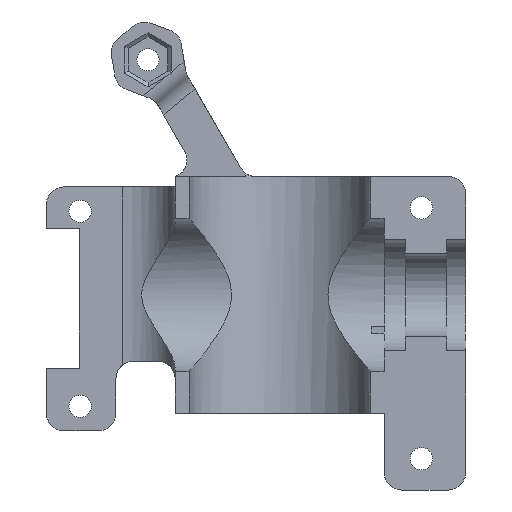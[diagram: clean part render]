
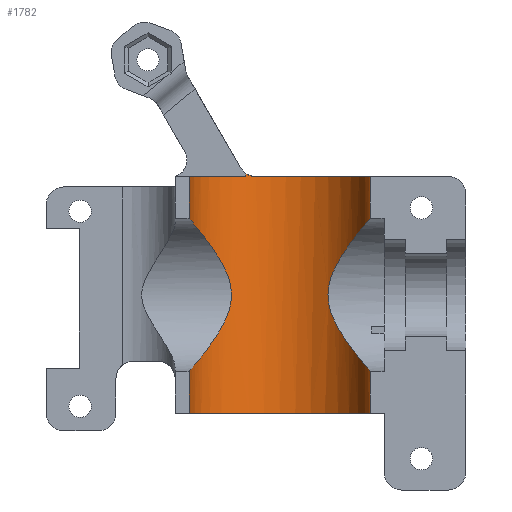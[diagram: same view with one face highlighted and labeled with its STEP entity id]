
A CAD part, front view. The second image highlights one B-rep face of the part: STEP entity #1782.
In plain terms, the highlighted cylindrical face has radius 13 mm (diameter 26 mm), a partial arc.
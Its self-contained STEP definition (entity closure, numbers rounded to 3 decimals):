
#49=B_SPLINE_CURVE_WITH_KNOTS('',3,(#2482,#2483,#2484,#2485,#2486,#2487,
#2488,#2489,#2490,#2491,#2492,#2493,#2494,#2495,#2496,#2497,#2498,#2499,
#2500,#2501,#2502,#2503,#2504,#2505,#2506,#2507),.UNSPECIFIED.,.F.,.F.,
(4,2,2,2,2,2,2,2,2,2,2,2,4),(1.804,2.024,2.244,
2.685,3.146,3.377,3.607,3.838,
4.069,4.53,4.971,5.191,5.411),
 .UNSPECIFIED.);
#51=B_SPLINE_CURVE_WITH_KNOTS('',3,(#2545,#2546,#2547,#2548,#2549,#2550,
#2551,#2552,#2553,#2554,#2555,#2556,#2557,#2558,#2559,#2560,#2561,#2562,
#2563,#2564,#2565,#2566,#2567,#2568,#2569,#2570),.UNSPECIFIED.,.F.,.F.,
(4,2,2,2,2,2,2,2,2,2,2,2,4),(1.804,2.024,2.244,
2.685,3.146,3.377,3.607,3.838,
4.069,4.53,4.971,5.191,5.411),
 .UNSPECIFIED.);
#56=B_SPLINE_CURVE_WITH_KNOTS('',3,(#2983,#2984,#2985,#2986,#2987,#2988),
 .UNSPECIFIED.,.F.,.F.,(4,2,4),(1.012,1.062,1.16),
 .UNSPECIFIED.);
#90=CYLINDRICAL_SURFACE('',#1945,13.);
#177=FACE_OUTER_BOUND('',#295,.T.);
#295=EDGE_LOOP('',(#1588,#1589,#1590,#1591,#1592,#1593,#1594,#1595,#1596,
#1597,#1598));
#318=LINE('',#2586,#488);
#329=LINE('',#2613,#499);
#373=LINE('',#2741,#543);
#473=LINE('',#3054,#643);
#474=LINE('',#3077,#644);
#488=VECTOR('',#1997,10.);
#499=VECTOR('',#2016,10.);
#543=VECTOR('',#2112,10.);
#643=VECTOR('',#2402,10.);
#644=VECTOR('',#2435,10.);
#669=CIRCLE('',#1837,13.);
#690=CIRCLE('',#1903,13.);
#707=CIRCLE('',#1946,13.);
#719=VERTEX_POINT('',#2480);
#720=VERTEX_POINT('',#2481);
#725=VERTEX_POINT('',#2543);
#726=VERTEX_POINT('',#2544);
#731=VERTEX_POINT('',#2585);
#743=VERTEX_POINT('',#2611);
#787=VERTEX_POINT('',#2739);
#790=VERTEX_POINT('',#2747);
#860=VERTEX_POINT('',#2976);
#861=VERTEX_POINT('',#2978);
#862=VERTEX_POINT('',#2982);
#891=EDGE_CURVE('',#719,#720,#49,.T.);
#897=EDGE_CURVE('',#725,#726,#51,.T.);
#906=EDGE_CURVE('',#725,#731,#318,.T.);
#920=EDGE_CURVE('',#743,#720,#329,.T.);
#978=EDGE_CURVE('',#787,#726,#373,.T.);
#982=EDGE_CURVE('',#790,#787,#669,.T.);
#1089=EDGE_CURVE('',#861,#860,#690,.T.);
#1090=EDGE_CURVE('',#790,#862,#56,.F.);
#1122=EDGE_CURVE('',#862,#860,#473,.F.);
#1129=EDGE_CURVE('',#719,#861,#474,.T.);
#1130=EDGE_CURVE('',#731,#743,#707,.T.);
#1588=ORIENTED_EDGE('',*,*,#897,.T.);
#1589=ORIENTED_EDGE('',*,*,#978,.F.);
#1590=ORIENTED_EDGE('',*,*,#982,.F.);
#1591=ORIENTED_EDGE('',*,*,#1090,.T.);
#1592=ORIENTED_EDGE('',*,*,#1122,.T.);
#1593=ORIENTED_EDGE('',*,*,#1089,.F.);
#1594=ORIENTED_EDGE('',*,*,#1129,.F.);
#1595=ORIENTED_EDGE('',*,*,#891,.T.);
#1596=ORIENTED_EDGE('',*,*,#920,.F.);
#1597=ORIENTED_EDGE('',*,*,#1130,.F.);
#1598=ORIENTED_EDGE('',*,*,#906,.F.);
#1782=ADVANCED_FACE('',(#177),#90,.F.);
#1837=AXIS2_PLACEMENT_3D('',#2749,#2119,#2120);
#1903=AXIS2_PLACEMENT_3D('',#2980,#2329,#2330);
#1945=AXIS2_PLACEMENT_3D('',#3076,#2433,#2434);
#1946=AXIS2_PLACEMENT_3D('',#3078,#2436,#2437);
#1997=DIRECTION('',(0.,0.,-1.));
#2016=DIRECTION('',(0.,0.,1.));
#2112=DIRECTION('',(0.,0.,-1.));
#2119=DIRECTION('center_axis',(0.,0.,-1.));
#2120=DIRECTION('ref_axis',(-1.,0.,0.));
#2329=DIRECTION('center_axis',(0.,0.,-1.));
#2330=DIRECTION('ref_axis',(-1.,0.,0.));
#2402=DIRECTION('',(0.,0.,1.));
#2433=DIRECTION('center_axis',(0.,0.,1.));
#2434=DIRECTION('ref_axis',(-1.,0.,0.));
#2435=DIRECTION('',(0.,0.,1.));
#2436=DIRECTION('center_axis',(0.,0.,1.));
#2437=DIRECTION('ref_axis',(-1.,0.,0.));
#2480=CARTESIAN_POINT('',(-18.85,0.,11.));
#2481=CARTESIAN_POINT('',(-18.85,0.,-11.));
#2482=CARTESIAN_POINT('Ctrl Pts',(-18.85,0.,11.));
#2483=CARTESIAN_POINT('Ctrl Pts',(-18.85,0.734,11.));
#2484=CARTESIAN_POINT('Ctrl Pts',(-18.787,1.481,10.925));
#2485=CARTESIAN_POINT('Ctrl Pts',(-18.535,2.941,10.626));
#2486=CARTESIAN_POINT('Ctrl Pts',(-18.346,3.656,10.401));
#2487=CARTESIAN_POINT('Ctrl Pts',(-17.632,5.676,9.536));
#2488=CARTESIAN_POINT('Ctrl Pts',(-16.952,6.86,8.696));
#2489=CARTESIAN_POINT('Ctrl Pts',(-15.548,8.74,6.817));
#2490=CARTESIAN_POINT('Ctrl Pts',(-14.707,9.558,5.63));
#2491=CARTESIAN_POINT('Ctrl Pts',(-13.662,10.401,3.652));
#2492=CARTESIAN_POINT('Ctrl Pts',(-13.352,10.62,2.959));
#2493=CARTESIAN_POINT('Ctrl Pts',(-12.909,10.92,1.518));
#2494=CARTESIAN_POINT('Ctrl Pts',(-12.778,11.,0.769));
#2495=CARTESIAN_POINT('Ctrl Pts',(-12.778,11.,-0.769));
#2496=CARTESIAN_POINT('Ctrl Pts',(-12.909,10.92,-1.518));
#2497=CARTESIAN_POINT('Ctrl Pts',(-13.352,10.62,-2.959));
#2498=CARTESIAN_POINT('Ctrl Pts',(-13.662,10.401,-3.652));
#2499=CARTESIAN_POINT('Ctrl Pts',(-14.707,9.558,-5.63));
#2500=CARTESIAN_POINT('Ctrl Pts',(-15.548,8.74,-6.817));
#2501=CARTESIAN_POINT('Ctrl Pts',(-16.952,6.86,-8.696));
#2502=CARTESIAN_POINT('Ctrl Pts',(-17.632,5.676,-9.536));
#2503=CARTESIAN_POINT('Ctrl Pts',(-18.346,3.656,-10.401));
#2504=CARTESIAN_POINT('Ctrl Pts',(-18.535,2.941,-10.626));
#2505=CARTESIAN_POINT('Ctrl Pts',(-18.787,1.481,-10.925));
#2506=CARTESIAN_POINT('Ctrl Pts',(-18.85,0.734,-11.));
#2507=CARTESIAN_POINT('Ctrl Pts',(-18.85,0.,-11.));
#2543=CARTESIAN_POINT('',(7.15,0.,-11.));
#2544=CARTESIAN_POINT('',(7.15,0.,11.));
#2545=CARTESIAN_POINT('Ctrl Pts',(7.15,0.,-11.));
#2546=CARTESIAN_POINT('Ctrl Pts',(7.15,0.734,-11.));
#2547=CARTESIAN_POINT('Ctrl Pts',(7.087,1.481,-10.925));
#2548=CARTESIAN_POINT('Ctrl Pts',(6.835,2.941,-10.626));
#2549=CARTESIAN_POINT('Ctrl Pts',(6.646,3.656,-10.401));
#2550=CARTESIAN_POINT('Ctrl Pts',(5.932,5.676,-9.536));
#2551=CARTESIAN_POINT('Ctrl Pts',(5.252,6.86,-8.696));
#2552=CARTESIAN_POINT('Ctrl Pts',(3.848,8.74,-6.817));
#2553=CARTESIAN_POINT('Ctrl Pts',(3.007,9.558,-5.63));
#2554=CARTESIAN_POINT('Ctrl Pts',(1.962,10.401,-3.652));
#2555=CARTESIAN_POINT('Ctrl Pts',(1.652,10.62,-2.959));
#2556=CARTESIAN_POINT('Ctrl Pts',(1.209,10.92,-1.518));
#2557=CARTESIAN_POINT('Ctrl Pts',(1.078,11.,-0.769));
#2558=CARTESIAN_POINT('Ctrl Pts',(1.078,11.,0.769));
#2559=CARTESIAN_POINT('Ctrl Pts',(1.209,10.92,1.518));
#2560=CARTESIAN_POINT('Ctrl Pts',(1.652,10.62,2.959));
#2561=CARTESIAN_POINT('Ctrl Pts',(1.962,10.401,3.652));
#2562=CARTESIAN_POINT('Ctrl Pts',(3.007,9.558,5.63));
#2563=CARTESIAN_POINT('Ctrl Pts',(3.848,8.74,6.817));
#2564=CARTESIAN_POINT('Ctrl Pts',(5.252,6.86,8.696));
#2565=CARTESIAN_POINT('Ctrl Pts',(5.932,5.676,9.536));
#2566=CARTESIAN_POINT('Ctrl Pts',(6.646,3.656,10.401));
#2567=CARTESIAN_POINT('Ctrl Pts',(6.835,2.941,10.626));
#2568=CARTESIAN_POINT('Ctrl Pts',(7.087,1.481,10.925));
#2569=CARTESIAN_POINT('Ctrl Pts',(7.15,0.734,11.));
#2570=CARTESIAN_POINT('Ctrl Pts',(7.15,0.,11.));
#2585=CARTESIAN_POINT('',(7.15,0.,-17.));
#2586=CARTESIAN_POINT('',(7.15,0.,-17.));
#2611=CARTESIAN_POINT('',(-18.85,0.,-17.));
#2613=CARTESIAN_POINT('',(-18.85,0.,-17.));
#2739=CARTESIAN_POINT('',(7.15,0.,17.));
#2741=CARTESIAN_POINT('',(7.15,0.,-17.));
#2747=CARTESIAN_POINT('',(-9.303,12.533,17.));
#2749=CARTESIAN_POINT('Origin',(-5.85,0.,17.));
#2976=CARTESIAN_POINT('',(-10.703,12.06,17.));
#2978=CARTESIAN_POINT('',(-18.85,0.,17.));
#2980=CARTESIAN_POINT('Origin',(-5.85,0.,17.));
#2982=CARTESIAN_POINT('',(-10.703,12.06,17.429));
#2983=CARTESIAN_POINT('Ctrl Pts',(-10.703,12.06,17.429));
#2984=CARTESIAN_POINT('Ctrl Pts',(-10.566,12.115,17.336));
#2985=CARTESIAN_POINT('Ctrl Pts',(-10.417,12.172,17.256));
#2986=CARTESIAN_POINT('Ctrl Pts',(-9.955,12.339,17.064));
#2987=CARTESIAN_POINT('Ctrl Pts',(-9.62,12.446,17.));
#2988=CARTESIAN_POINT('Ctrl Pts',(-9.303,12.533,17.));
#3054=CARTESIAN_POINT('',(-10.703,12.06,-17.));
#3076=CARTESIAN_POINT('Origin',(-5.85,0.,-17.));
#3077=CARTESIAN_POINT('',(-18.85,0.,-17.));
#3078=CARTESIAN_POINT('Origin',(-5.85,0.,-17.));
